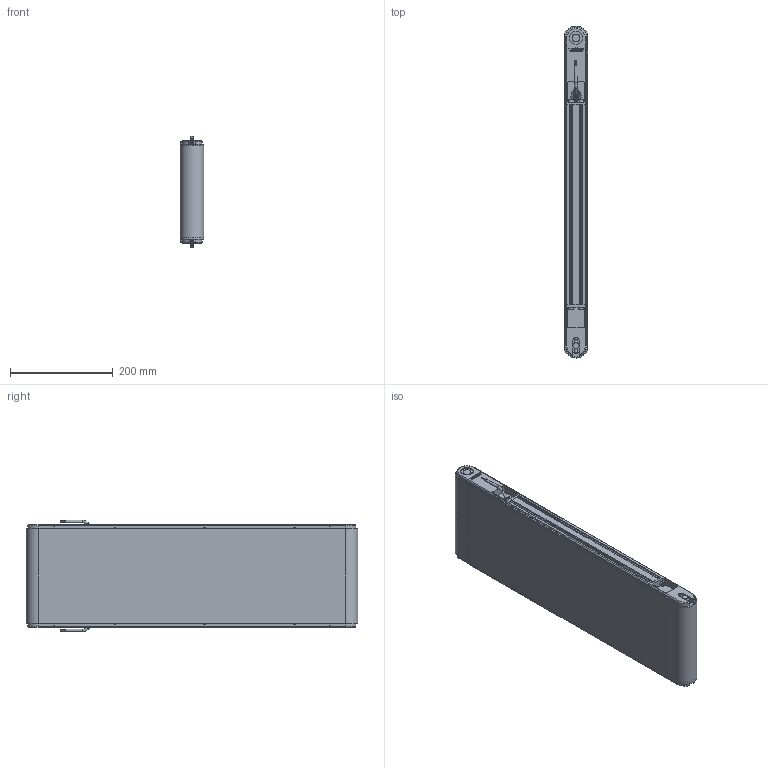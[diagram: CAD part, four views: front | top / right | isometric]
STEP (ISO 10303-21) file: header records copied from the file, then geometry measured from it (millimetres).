
FILE_DESCRIPTION(/* description */ (''),/* implementation_level */ '2;1');
FILE_NAME(/* name */ 'G:\DATEN\CAD\Förderband\Marketing\3D-Modelle (Standard)\FR-40-200\FR-40-200-600-K.stp',/* time_stamp */ '2019-04-24T13:48:34+02:00',/* author */ ('melanie.ochs'),/* organization */ (''),/* preprocessor_version */ 'ST-DEVELOPER v17',/* originating_system */ 'Autodesk Inventor 2019',/* authorisation */ '');
FILE_SCHEMA (('CONFIG_CONTROL_DESIGN'));
Length unit declared in the file: centimetre
Products named in the file (1): FR-40-200-600-K
Bounding box: 46.6 x 646.6 x 217.07 mm (x, y, z)
Volume: 2503190 mm3; surface area: 856754.8 mm2
Topology: 7 solids, 25 shells, 1130 faces, 3051 edges, 2017 vertices
Faces by surface type: plane 561, cylinder 330, bspline 124, cone 77, torus 38
Full cylindrical faces by diameter (mm): 2 x4, 4 x6, 4.3 x4, 4.917 x1, 5 x14, 5.5 x8, 6 x4, 6.647 x2, 8 x4, 8.3 x6, 8.5 x8, 8.773 x2, 10 x2, 11 x2, 12 x3, 15 x2, 20 x4, 25 x2, 28 x4
Entity records: 38330 total; most frequent: CARTESIAN_POINT 9262, ORIENTED_EDGE 6078, DIRECTION 5523, EDGE_CURVE 3039, VERTEX_POINT 2017, AXIS2_PLACEMENT_3D 1955, LINE 1613, VECTOR 1613
